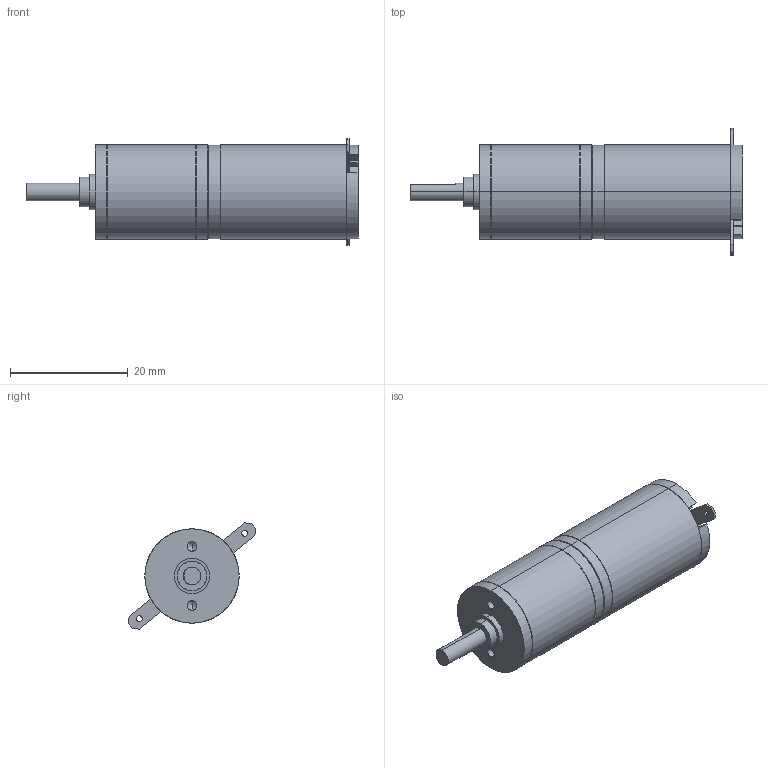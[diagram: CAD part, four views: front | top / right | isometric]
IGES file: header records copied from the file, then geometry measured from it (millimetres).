
Start section: SolidWorks IGES file using analytic representation for surfaces
Global section: file name: \\Uranus\R&D\plans\CATALOGUES\Topstock_Piece_IGES\AMax16CLL_+_GP016A 2etages.IGS; native system: SolidWorks 2008; preprocessor: SolidWorks 2008; author: JUL; date: 090325.182748; units: millimetre
Bounding box: 56.35 x 21.61 x 18.03 mm (x, y, z)
Surface area: 3493.6 mm2 (no closed solid volume)
Topology: 0 solids, 0 shells, 121 faces, 1278 edges, 1262 vertices
Faces by surface type: revolution 75, bspline 46
